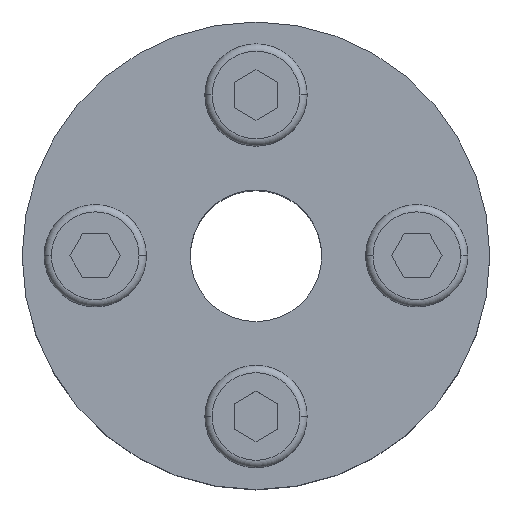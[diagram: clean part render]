
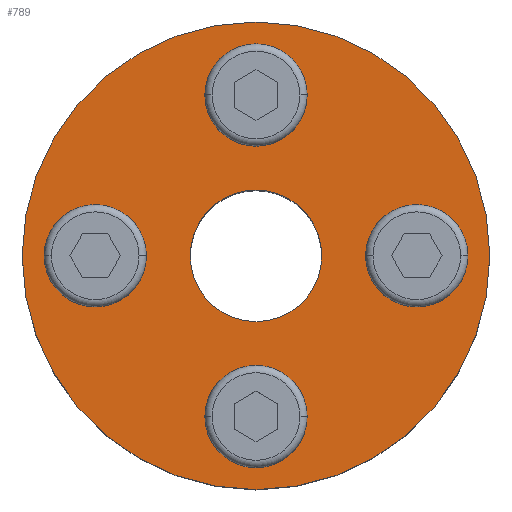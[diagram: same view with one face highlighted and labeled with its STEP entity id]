
A CAD part, top view. The second image highlights one B-rep face of the part: STEP entity #789.
In plain terms, the highlighted planar face has unit normal (0, 0, 1).
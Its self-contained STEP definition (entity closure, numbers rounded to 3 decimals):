
#6 = EDGE_LOOP ( 'NONE', ( #409, #258 ) ) ;
#18 = CARTESIAN_POINT ( 'NONE',  ( 0., 0., 0. ) ) ;
#46 = ORIENTED_EDGE ( 'NONE', *, *, #161, .F. ) ;
#66 = EDGE_CURVE ( 'NONE', #371, #1541, #1521, .T. ) ;
#75 = ORIENTED_EDGE ( 'NONE', *, *, #963, .T. ) ;
#84 = DIRECTION ( 'NONE',  ( -1., 0., 0. ) ) ;
#86 = CIRCLE ( 'NONE', #335, 4.5 ) ;
#92 = ORIENTED_EDGE ( 'NONE', *, *, #550, .F. ) ;
#104 = CARTESIAN_POINT ( 'NONE',  ( 0., 0., 0. ) ) ;
#122 = DIRECTION ( 'NONE',  ( 0., 0., 1. ) ) ;
#127 = AXIS2_PLACEMENT_3D ( 'NONE', #18, #549, #1567 ) ;
#147 = CIRCLE ( 'NONE', #193, 3.5 ) ;
#156 = CARTESIAN_POINT ( 'NONE',  ( 3.5, 11., 0. ) ) ;
#159 = CARTESIAN_POINT ( 'NONE',  ( -11., 0., 0. ) ) ;
#160 = CARTESIAN_POINT ( 'NONE',  ( 3.5, -11., 0. ) ) ;
#161 = EDGE_CURVE ( 'NONE', #1073, #445, #428, .T. ) ;
#164 = CIRCLE ( 'NONE', #127, 16. ) ;
#176 = EDGE_CURVE ( 'NONE', #516, #1483, #1071, .T. ) ;
#183 = CARTESIAN_POINT ( 'NONE',  ( -16., 0., 0. ) ) ;
#193 = AXIS2_PLACEMENT_3D ( 'NONE', #876, #626, #852 ) ;
#202 = VERTEX_POINT ( 'NONE', #183 ) ;
#216 = AXIS2_PLACEMENT_3D ( 'NONE', #159, #1176, #688 ) ;
#256 = DIRECTION ( 'NONE',  ( -1., 0., 0. ) ) ;
#258 = ORIENTED_EDGE ( 'NONE', *, *, #176, .F. ) ;
#290 = CIRCLE ( 'NONE', #389, 3.5 ) ;
#328 = CIRCLE ( 'NONE', #1641, 16. ) ;
#335 = AXIS2_PLACEMENT_3D ( 'NONE', #104, #1160, #373 ) ;
#356 = FACE_OUTER_BOUND ( 'NONE', #1449, .T. ) ;
#371 = VERTEX_POINT ( 'NONE', #1588 ) ;
#373 = DIRECTION ( 'NONE',  ( 1., 0., 0. ) ) ;
#385 = VERTEX_POINT ( 'NONE', #1666 ) ;
#387 = ORIENTED_EDGE ( 'NONE', *, *, #1684, .F. ) ;
#389 = AXIS2_PLACEMENT_3D ( 'NONE', #848, #1367, #724 ) ;
#404 = EDGE_LOOP ( 'NONE', ( #46, #387 ) ) ;
#409 = ORIENTED_EDGE ( 'NONE', *, *, #691, .F. ) ;
#418 = EDGE_CURVE ( 'NONE', #1048, #1407, #537, .T. ) ;
#428 = CIRCLE ( 'NONE', #1300, 3.5 ) ;
#445 = VERTEX_POINT ( 'NONE', #156 ) ;
#462 = FACE_BOUND ( 'NONE', #1412, .T. ) ;
#468 = DIRECTION ( 'NONE',  ( 0., 0., 1. ) ) ;
#491 = CARTESIAN_POINT ( 'NONE',  ( 11., 0., 0. ) ) ;
#496 = AXIS2_PLACEMENT_3D ( 'NONE', #491, #1645, #889 ) ;
#511 = DIRECTION ( 'NONE',  ( 0., 0., -1. ) ) ;
#516 = VERTEX_POINT ( 'NONE', #160 ) ;
#520 = DIRECTION ( 'NONE',  ( 1., 0., 0. ) ) ;
#537 = CIRCLE ( 'NONE', #1241, 4.5 ) ;
#549 = DIRECTION ( 'NONE',  ( 0., 0., 1. ) ) ;
#550 = EDGE_CURVE ( 'NONE', #385, #1003, #290, .T. ) ;
#606 = DIRECTION ( 'NONE',  ( -1., 0., 0. ) ) ;
#618 = ORIENTED_EDGE ( 'NONE', *, *, #819, .F. ) ;
#626 = DIRECTION ( 'NONE',  ( 0., 0., 1. ) ) ;
#645 = EDGE_LOOP ( 'NONE', ( #1501, #1413 ) ) ;
#653 = DIRECTION ( 'NONE',  ( 1., 0., 0. ) ) ;
#671 = CARTESIAN_POINT ( 'NONE',  ( 7.5, 0., 0. ) ) ;
#688 = DIRECTION ( 'NONE',  ( -1., 0., 0. ) ) ;
#691 = EDGE_CURVE ( 'NONE', #1483, #516, #147, .T. ) ;
#710 = CARTESIAN_POINT ( 'NONE',  ( -3.5, 11., 0. ) ) ;
#724 = DIRECTION ( 'NONE',  ( -1., 0., 0. ) ) ;
#734 = CARTESIAN_POINT ( 'NONE',  ( 0., -11., 0. ) ) ;
#789 = ADVANCED_FACE ( 'NONE', ( #822, #462, #1123, #1574, #1674, #356 ), #884, .F. ) ;
#794 = CARTESIAN_POINT ( 'NONE',  ( 16., 0., 0. ) ) ;
#801 = EDGE_CURVE ( 'NONE', #1407, #1048, #86, .T. ) ;
#819 = EDGE_CURVE ( 'NONE', #1003, #385, #1406, .T. ) ;
#822 = FACE_BOUND ( 'NONE', #404, .T. ) ;
#848 = CARTESIAN_POINT ( 'NONE',  ( 11., 0., 0. ) ) ;
#852 = DIRECTION ( 'NONE',  ( -1., 0., 0. ) ) ;
#863 = DIRECTION ( 'NONE',  ( 0., 0., 1. ) ) ;
#868 = DIRECTION ( 'NONE',  ( -1., 0., 0. ) ) ;
#876 = CARTESIAN_POINT ( 'NONE',  ( 0., -11., 0. ) ) ;
#878 = VERTEX_POINT ( 'NONE', #794 ) ;
#884 = PLANE ( 'NONE',  #1672 ) ;
#889 = DIRECTION ( 'NONE',  ( -1., 0., 0. ) ) ;
#955 = AXIS2_PLACEMENT_3D ( 'NONE', #965, #1095, #978 ) ;
#963 = EDGE_CURVE ( 'NONE', #202, #878, #328, .T. ) ;
#965 = CARTESIAN_POINT ( 'NONE',  ( -11., 0., 0. ) ) ;
#978 = DIRECTION ( 'NONE',  ( -1., 0., 0. ) ) ;
#1003 = VERTEX_POINT ( 'NONE', #671 ) ;
#1017 = AXIS2_PLACEMENT_3D ( 'NONE', #1056, #122, #256 ) ;
#1048 = VERTEX_POINT ( 'NONE', #1663 ) ;
#1056 = CARTESIAN_POINT ( 'NONE',  ( 0., 11., 0. ) ) ;
#1071 = CIRCLE ( 'NONE', #1514, 3.5 ) ;
#1073 = VERTEX_POINT ( 'NONE', #710 ) ;
#1074 = EDGE_CURVE ( 'NONE', #1541, #371, #1282, .T. ) ;
#1079 = CARTESIAN_POINT ( 'NONE',  ( 0., 0., 0. ) ) ;
#1083 = CIRCLE ( 'NONE', #1017, 3.5 ) ;
#1095 = DIRECTION ( 'NONE',  ( 0., 0., 1. ) ) ;
#1101 = EDGE_CURVE ( 'NONE', #878, #202, #164, .T. ) ;
#1123 = FACE_BOUND ( 'NONE', #6, .T. ) ;
#1126 = CARTESIAN_POINT ( 'NONE',  ( 4.5, 0., 0. ) ) ;
#1143 = EDGE_LOOP ( 'NONE', ( #1197, #1454 ) ) ;
#1144 = CARTESIAN_POINT ( 'NONE',  ( -4.5, 0., 0. ) ) ;
#1160 = DIRECTION ( 'NONE',  ( 0., 0., 1. ) ) ;
#1167 = DIRECTION ( 'NONE',  ( 0., 0., 1. ) ) ;
#1176 = DIRECTION ( 'NONE',  ( 0., 0., 1. ) ) ;
#1183 = CARTESIAN_POINT ( 'NONE',  ( 0., 0., 0. ) ) ;
#1197 = ORIENTED_EDGE ( 'NONE', *, *, #801, .F. ) ;
#1241 = AXIS2_PLACEMENT_3D ( 'NONE', #1079, #1583, #653 ) ;
#1244 = CARTESIAN_POINT ( 'NONE',  ( -3.5, -11., 0. ) ) ;
#1258 = CARTESIAN_POINT ( 'NONE',  ( 0., 11., 0. ) ) ;
#1282 = CIRCLE ( 'NONE', #216, 3.5 ) ;
#1300 = AXIS2_PLACEMENT_3D ( 'NONE', #1258, #468, #606 ) ;
#1367 = DIRECTION ( 'NONE',  ( 0., 0., 1. ) ) ;
#1406 = CIRCLE ( 'NONE', #496, 3.5 ) ;
#1407 = VERTEX_POINT ( 'NONE', #1126 ) ;
#1412 = EDGE_LOOP ( 'NONE', ( #618, #92 ) ) ;
#1413 = ORIENTED_EDGE ( 'NONE', *, *, #66, .F. ) ;
#1449 = EDGE_LOOP ( 'NONE', ( #1637, #75 ) ) ;
#1454 = ORIENTED_EDGE ( 'NONE', *, *, #418, .F. ) ;
#1483 = VERTEX_POINT ( 'NONE', #1244 ) ;
#1501 = ORIENTED_EDGE ( 'NONE', *, *, #1074, .F. ) ;
#1514 = AXIS2_PLACEMENT_3D ( 'NONE', #734, #863, #868 ) ;
#1521 = CIRCLE ( 'NONE', #955, 3.5 ) ;
#1528 = CARTESIAN_POINT ( 'NONE',  ( -14.5, 0., 0. ) ) ;
#1541 = VERTEX_POINT ( 'NONE', #1528 ) ;
#1567 = DIRECTION ( 'NONE',  ( 1., 0., 0. ) ) ;
#1574 = FACE_BOUND ( 'NONE', #645, .T. ) ;
#1583 = DIRECTION ( 'NONE',  ( 0., 0., 1. ) ) ;
#1588 = CARTESIAN_POINT ( 'NONE',  ( -7.5, 0., 0. ) ) ;
#1637 = ORIENTED_EDGE ( 'NONE', *, *, #1101, .T. ) ;
#1641 = AXIS2_PLACEMENT_3D ( 'NONE', #1183, #1167, #520 ) ;
#1645 = DIRECTION ( 'NONE',  ( 0., 0., 1. ) ) ;
#1663 = CARTESIAN_POINT ( 'NONE',  ( -4.5, 0., 0. ) ) ;
#1666 = CARTESIAN_POINT ( 'NONE',  ( 14.5, 0., 0. ) ) ;
#1672 = AXIS2_PLACEMENT_3D ( 'NONE', #1144, #511, #84 ) ;
#1674 = FACE_BOUND ( 'NONE', #1143, .T. ) ;
#1684 = EDGE_CURVE ( 'NONE', #445, #1073, #1083, .T. ) ;
